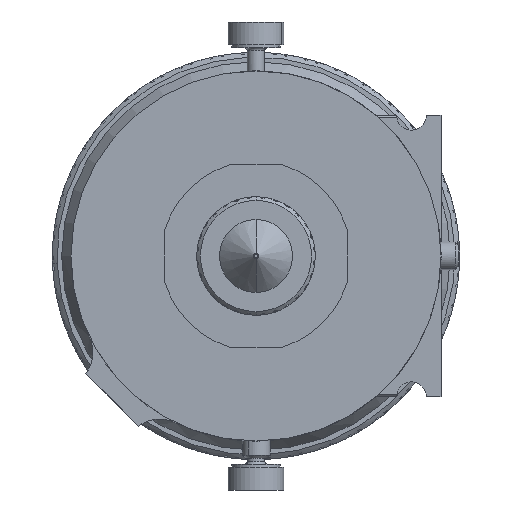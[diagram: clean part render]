
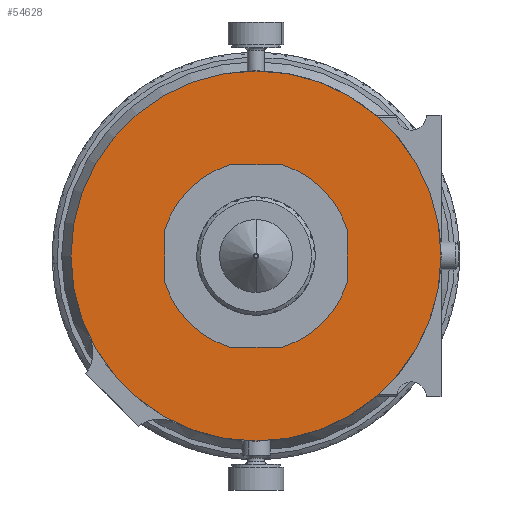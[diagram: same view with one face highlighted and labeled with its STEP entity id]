
A CAD part, front view. The second image highlights one B-rep face of the part: STEP entity #54628.
In plain terms, the highlighted planar face has unit normal (0, -1, 0).
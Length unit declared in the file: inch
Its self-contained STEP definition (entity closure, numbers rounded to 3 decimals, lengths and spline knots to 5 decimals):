
#965 = DIRECTION ( 'NONE',  ( 0., -1., 0. ) ) ;
#1636 = CIRCLE ( 'NONE', #13597, 1.25 ) ;
#2060 = VECTOR ( 'NONE', #48284, 39.37008 ) ;
#2108 = ORIENTED_EDGE ( 'NONE', *, *, #10881, .T. ) ;
#2354 = CARTESIAN_POINT ( 'NONE',  ( 0.0045, -3.60611, 0.615 ) ) ;
#2774 = ORIENTED_EDGE ( 'NONE', *, *, #33292, .F. ) ;
#3851 = CARTESIAN_POINT ( 'NONE',  ( -0.17263, -3.60611, 0.6875 ) ) ;
#3967 = EDGE_CURVE ( 'Defeatured_0_665+Defeatured_0_666+Defeatured_0_659+Defeatured_0_658', #50066, #57880, #60684, .T. ) ;
#4349 = CARTESIAN_POINT ( 'NONE',  ( -0.17263, -3.60611, -0.615 ) ) ;
#4720 = DIRECTION ( 'NONE',  ( -1., 0., 0. ) ) ;
#5730 = DIRECTION ( 'NONE',  ( -1., 0., 0. ) ) ;
#6083 = VERTEX_POINT ( 'NONE', #2354 ) ;
#6848 = EDGE_CURVE ( 'Defeatured_0_666+Defeatured_0_661+Defeatured_0_662+Defeatured_0_664', #31636, #31518, #10559, .T. ) ;
#8341 = LINE ( 'NONE', #16347, #53869 ) ;
#9203 = PLANE ( 'NONE',  #59391 ) ;
#10368 = CARTESIAN_POINT ( 'NONE',  ( -0.34976, -3.60611, 0.615 ) ) ;
#10559 = LINE ( 'NONE', #4349, #20108 ) ;
#10881 = EDGE_CURVE ( 'Defeatured_0_666+Defeatured_0_660+Defeatured_0_663+Defeatured_0_662', #14887, #18210, #14591, .T. ) ;
#12163 = DIRECTION ( 'NONE',  ( 0., -1., 0. ) ) ;
#13303 = AXIS2_PLACEMENT_3D ( 'NONE', #19863, #29499, #38730 ) ;
#13498 = DIRECTION ( 'NONE',  ( 0., 1., 0. ) ) ;
#13597 = AXIS2_PLACEMENT_3D ( 'NONE', #32632, #28160, #4720 ) ;
#14591 = LINE ( 'NONE', #48481, #2060 ) ;
#14887 = VERTEX_POINT ( 'NONE', #43768 ) ;
#15828 = EDGE_CURVE ( 'Defeatured_0_663+Defeatured_0_666+Defeatured_0_660+Defeatured_0_659', #14887, #6083, #55962, .T. ) ;
#16347 = CARTESIAN_POINT ( 'NONE',  ( -0.17263, -3.60611, 0.615 ) ) ;
#16645 = DIRECTION ( 'NONE',  ( -1., 0., 0. ) ) ;
#16658 = DIRECTION ( 'NONE',  ( -1., 0., 0. ) ) ;
#18011 = CIRCLE ( 'NONE', #24154, 1.25 ) ;
#18096 = DIRECTION ( 'NONE',  ( -1., 0., 0. ) ) ;
#18210 = VERTEX_POINT ( 'NONE', #51270 ) ;
#19863 = CARTESIAN_POINT ( 'NONE',  ( -0.17263, -3.60611, 0. ) ) ;
#20108 = VECTOR ( 'NONE', #18096, 39.37008 ) ;
#20985 = CARTESIAN_POINT ( 'NONE',  ( -0.17263, -3.60611, 0. ) ) ;
#24042 = CARTESIAN_POINT ( 'NONE',  ( -0.34976, -3.60611, -0.615 ) ) ;
#24154 = AXIS2_PLACEMENT_3D ( 'NONE', #41072, #27583, #55051 ) ;
#26806 = ORIENTED_EDGE ( 'NONE', *, *, #6848, .T. ) ;
#27583 = DIRECTION ( 'NONE',  ( 0., 1., 0. ) ) ;
#28160 = DIRECTION ( 'NONE',  ( 0., 1., 0. ) ) ;
#28637 = ORIENTED_EDGE ( 'NONE', *, *, #48576, .F. ) ;
#29499 = DIRECTION ( 'NONE',  ( 0., -1., 0. ) ) ;
#31181 = ORIENTED_EDGE ( 'NONE', *, *, #3967, .F. ) ;
#31518 = VERTEX_POINT ( 'NONE', #24042 ) ;
#31636 = VERTEX_POINT ( 'NONE', #39109 ) ;
#32319 = ORIENTED_EDGE ( 'NONE', *, *, #36533, .T. ) ;
#32632 = CARTESIAN_POINT ( 'NONE',  ( -0.17263, -3.60611, 0. ) ) ;
#33292 = EDGE_CURVE ( 'Defeatured_0_667+Defeatured_0_666+Defeatured_0_666+Defeatured_0_666', #59333, #53721, #18011, .T. ) ;
#34836 = CARTESIAN_POINT ( 'NONE',  ( 1.07737, -3.60611, 0. ) ) ;
#35558 = CARTESIAN_POINT ( 'NONE',  ( -0.17263, -3.60611, 0. ) ) ;
#36517 = DIRECTION ( 'NONE',  ( -1., 0., 0. ) ) ;
#36533 = EDGE_CURVE ( 'Defeatured_0_666+Defeatured_0_658+Defeatured_0_664+Defeatured_0_665', #57579, #57880, #52930, .T. ) ;
#38730 = DIRECTION ( 'NONE',  ( -1., 0., 0. ) ) ;
#39109 = CARTESIAN_POINT ( 'NONE',  ( 0.0045, -3.60611, -0.615 ) ) ;
#39242 = FACE_OUTER_BOUND ( 'NONE', #60292, .T. ) ;
#40253 = ORIENTED_EDGE ( 'NONE', *, *, #59421, .T. ) ;
#41072 = CARTESIAN_POINT ( 'NONE',  ( -0.17263, -3.60611, 0. ) ) ;
#41792 = ORIENTED_EDGE ( 'NONE', *, *, #43804, .F. ) ;
#42158 = AXIS2_PLACEMENT_3D ( 'NONE', #20985, #54013, #16645 ) ;
#42385 = EDGE_CURVE ( 'Defeatured_0_664+Defeatured_0_666+Defeatured_0_658+Defeatured_0_661', #57579, #31518, #56234, .T. ) ;
#42722 = CARTESIAN_POINT ( 'NONE',  ( -0.78763, -3.60611, 0.6875 ) ) ;
#42936 = DIRECTION ( 'NONE',  ( 0., 0., 1. ) ) ;
#43768 = CARTESIAN_POINT ( 'NONE',  ( 0.44237, -3.60611, 0.17713 ) ) ;
#43804 = EDGE_CURVE ( 'Defeatured_0_662+Defeatured_0_666+Defeatured_0_661+Defeatured_0_660', #31636, #18210, #60381, .T. ) ;
#47948 = CARTESIAN_POINT ( 'NONE',  ( -0.17263, -3.60611, 0. ) ) ;
#48284 = DIRECTION ( 'NONE',  ( 0., 0., -1. ) ) ;
#48469 = VECTOR ( 'NONE', #42936, 39.37008 ) ;
#48481 = CARTESIAN_POINT ( 'NONE',  ( 0.44237, -3.60611, 0.6875 ) ) ;
#48576 = EDGE_CURVE ( 'Defeatured_0_667+Defeatured_0_666+Defeatured_0_666+Defeatured_0_666', #53721, #59333, #1636, .T. ) ;
#49970 = AXIS2_PLACEMENT_3D ( 'NONE', #47948, #965, #5730 ) ;
#50031 = EDGE_LOOP ( 'NONE', ( #58622, #2108, #41792, #26806, #58884, #32319, #31181, #40253 ) ) ;
#50066 = VERTEX_POINT ( 'NONE', #10368 ) ;
#50245 = FACE_BOUND ( 'NONE', #50031, .T. ) ;
#50542 = CARTESIAN_POINT ( 'NONE',  ( -0.78763, -3.60611, -0.17713 ) ) ;
#50674 = CARTESIAN_POINT ( 'NONE',  ( -1.42263, -3.60611, 0. ) ) ;
#51270 = CARTESIAN_POINT ( 'NONE',  ( 0.44237, -3.60611, -0.17713 ) ) ;
#52930 = LINE ( 'NONE', #42722, #48469 ) ;
#53403 = CARTESIAN_POINT ( 'NONE',  ( -0.78763, -3.60611, 0.17713 ) ) ;
#53721 = VERTEX_POINT ( 'NONE', #50674 ) ;
#53869 = VECTOR ( 'NONE', #59002, 39.37008 ) ;
#53995 = AXIS2_PLACEMENT_3D ( 'NONE', #35558, #12163, #16658 ) ;
#54013 = DIRECTION ( 'NONE',  ( 0., -1., 0. ) ) ;
#54628 = ADVANCED_FACE ( 'Defeatured_0_666', ( #50245, #39242 ), #9203, .F. ) ;
#55051 = DIRECTION ( 'NONE',  ( -1., 0., 0. ) ) ;
#55962 = CIRCLE ( 'NONE', #42158, 0.64 ) ;
#56234 = CIRCLE ( 'NONE', #13303, 0.64 ) ;
#57579 = VERTEX_POINT ( 'NONE', #50542 ) ;
#57880 = VERTEX_POINT ( 'NONE', #53403 ) ;
#58622 = ORIENTED_EDGE ( 'NONE', *, *, #15828, .F. ) ;
#58884 = ORIENTED_EDGE ( 'NONE', *, *, #42385, .F. ) ;
#59002 = DIRECTION ( 'NONE',  ( 1., 0., 0. ) ) ;
#59333 = VERTEX_POINT ( 'NONE', #34836 ) ;
#59391 = AXIS2_PLACEMENT_3D ( 'NONE', #3851, #13498, #36517 ) ;
#59421 = EDGE_CURVE ( 'Defeatured_0_666+Defeatured_0_659+Defeatured_0_665+Defeatured_0_663', #50066, #6083, #8341, .T. ) ;
#60292 = EDGE_LOOP ( 'NONE', ( #28637, #2774 ) ) ;
#60381 = CIRCLE ( 'NONE', #49970, 0.64 ) ;
#60684 = CIRCLE ( 'NONE', #53995, 0.64 ) ;
